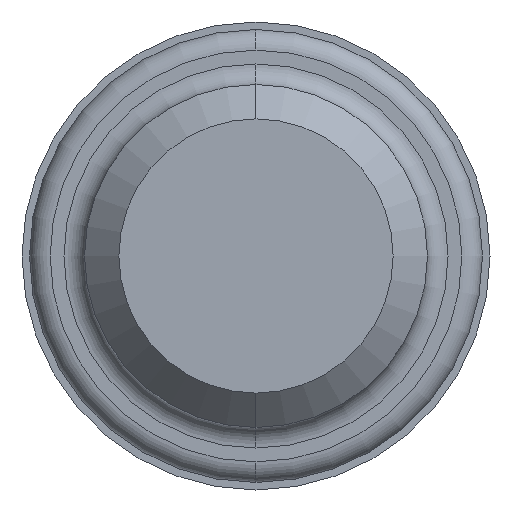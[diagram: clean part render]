
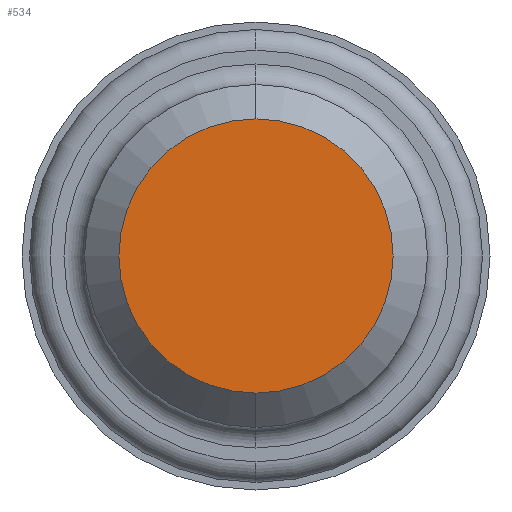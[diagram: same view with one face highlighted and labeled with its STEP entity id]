
A CAD part, left-side view. The second image highlights one B-rep face of the part: STEP entity #534.
In plain terms, the highlighted planar face has unit normal (-1, 0, 0).
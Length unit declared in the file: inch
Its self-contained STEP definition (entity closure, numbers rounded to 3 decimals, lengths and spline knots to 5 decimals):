
#17 = DIRECTION ( 'NONE',  ( 0., 0., 1. ) ) ;
#30 = VERTEX_POINT ( 'NONE', #530 ) ;
#39 = ORIENTED_EDGE ( 'NONE', *, *, #102, .T. ) ;
#42 = DIRECTION ( 'NONE',  ( -1., 0., 0. ) ) ;
#99 = CARTESIAN_POINT ( 'NONE',  ( 0., 0., 0. ) ) ;
#102 = EDGE_CURVE ( 'NONE', #30, #182, #140, .T. ) ;
#120 = DIRECTION ( 'NONE',  ( -1., 0., 0. ) ) ;
#140 = CIRCLE ( 'NONE', #563, 0.19985 ) ;
#182 = VERTEX_POINT ( 'NONE', #501 ) ;
#189 = EDGE_CURVE ( 'NONE', #182, #30, #264, .T. ) ;
#196 = PLANE ( 'NONE',  #286 ) ;
#209 = CARTESIAN_POINT ( 'NONE',  ( 0., 0., 0. ) ) ;
#220 = DIRECTION ( 'NONE',  ( 1., 0., 0. ) ) ;
#264 = CIRCLE ( 'NONE', #297, 0.19985 ) ;
#286 = AXIS2_PLACEMENT_3D ( 'NONE', #209, #220, #458 ) ;
#297 = AXIS2_PLACEMENT_3D ( 'NONE', #99, #42, #17 ) ;
#328 = EDGE_LOOP ( 'NONE', ( #39, #446 ) ) ;
#330 = FACE_OUTER_BOUND ( 'NONE', #328, .T. ) ;
#446 = ORIENTED_EDGE ( 'NONE', *, *, #189, .T. ) ;
#458 = DIRECTION ( 'NONE',  ( 0., 0., -1. ) ) ;
#501 = CARTESIAN_POINT ( 'NONE',  ( 0., 0., 0.19985 ) ) ;
#505 = DIRECTION ( 'NONE',  ( 0., 0., 1. ) ) ;
#530 = CARTESIAN_POINT ( 'NONE',  ( 0., 0., -0.19985 ) ) ;
#534 = ADVANCED_FACE ( 'NONE', ( #330 ), #196, .F. ) ;
#563 = AXIS2_PLACEMENT_3D ( 'NONE', #646, #120, #505 ) ;
#646 = CARTESIAN_POINT ( 'NONE',  ( 0., 0., 0. ) ) ;
